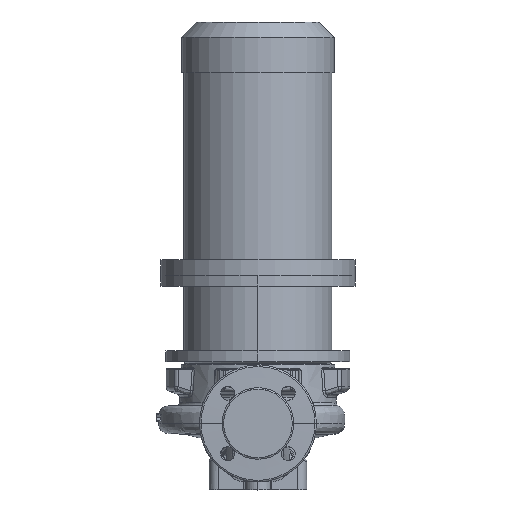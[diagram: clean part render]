
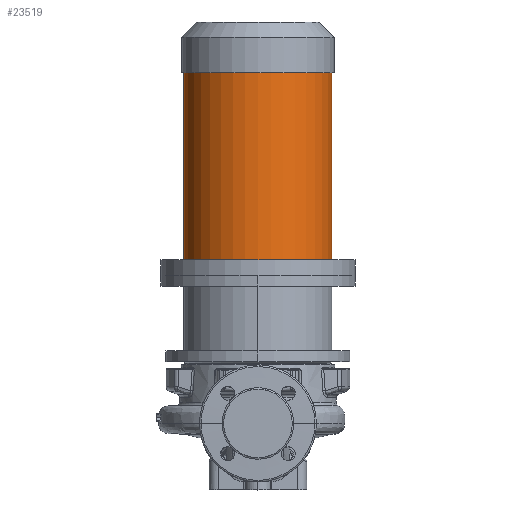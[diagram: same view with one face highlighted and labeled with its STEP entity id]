
A CAD part, top view. The second image highlights one B-rep face of the part: STEP entity #23519.
In plain terms, the highlighted cylindrical face has radius 95 mm (diameter 190 mm), a partial arc.
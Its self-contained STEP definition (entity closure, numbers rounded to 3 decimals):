
#6637 = AXIS2_PLACEMENT_3D ( 'NONE', #28154, #75405, #48581 ) ;
#7483 = VECTOR ( 'NONE', #33608, 1000. ) ;
#9449 = VERTEX_POINT ( 'NONE', #58224 ) ;
#12897 = CARTESIAN_POINT ( 'NONE',  ( 0., 190.3, 0. ) ) ;
#15125 = EDGE_LOOP ( 'NONE', ( #54924, #35420, #70887, #69320 ) ) ;
#17359 = CIRCLE ( 'NONE', #55841, 95. ) ;
#17844 = CARTESIAN_POINT ( 'NONE',  ( -95., 190.3, 0. ) ) ;
#20679 = CARTESIAN_POINT ( 'NONE',  ( 95., 190.3, 0. ) ) ;
#23519 = ADVANCED_FACE ( 'NONE', ( #37168 ), #72296, .T. ) ;
#26309 = EDGE_CURVE ( 'NONE', #9449, #65539, #17359, .T. ) ;
#27694 = CARTESIAN_POINT ( 'NONE',  ( -95., 450.3, 0. ) ) ;
#28154 = CARTESIAN_POINT ( 'NONE',  ( 0., 450.3, 0. ) ) ;
#29402 = CARTESIAN_POINT ( 'NONE',  ( -95., 210.3, 0. ) ) ;
#30343 = EDGE_CURVE ( 'NONE', #52563, #9449, #49774, .T. ) ;
#33608 = DIRECTION ( 'NONE',  ( 0., -1., 0. ) ) ;
#35420 = ORIENTED_EDGE ( 'NONE', *, *, #70815, .T. ) ;
#37168 = FACE_OUTER_BOUND ( 'NONE', #15125, .T. ) ;
#44867 = DIRECTION ( 'NONE',  ( -1., 0., 0. ) ) ;
#46018 = CARTESIAN_POINT ( 'NONE',  ( 95., 450.3, 0. ) ) ;
#48581 = DIRECTION ( 'NONE',  ( -1., 0., 0. ) ) ;
#49774 = LINE ( 'NONE', #20679, #7483 ) ;
#52029 = DIRECTION ( 'NONE',  ( 0., -1., 0. ) ) ;
#52563 = VERTEX_POINT ( 'NONE', #46018 ) ;
#54924 = ORIENTED_EDGE ( 'NONE', *, *, #30343, .F. ) ;
#55841 = AXIS2_PLACEMENT_3D ( 'NONE', #78818, #52029, #78250 ) ;
#58224 = CARTESIAN_POINT ( 'NONE',  ( 95., 210.3, 0. ) ) ;
#58496 = AXIS2_PLACEMENT_3D ( 'NONE', #12897, #59088, #44867 ) ;
#59088 = DIRECTION ( 'NONE',  ( 0., -1., 0. ) ) ;
#59919 = LINE ( 'NONE', #17844, #70254 ) ;
#64302 = DIRECTION ( 'NONE',  ( 0., -1., 0. ) ) ;
#65539 = VERTEX_POINT ( 'NONE', #29402 ) ;
#66180 = CIRCLE ( 'NONE', #6637, 95. ) ;
#69320 = ORIENTED_EDGE ( 'NONE', *, *, #26309, .F. ) ;
#70254 = VECTOR ( 'NONE', #64302, 1000. ) ;
#70815 = EDGE_CURVE ( 'NONE', #52563, #81604, #66180, .T. ) ;
#70887 = ORIENTED_EDGE ( 'NONE', *, *, #73449, .T. ) ;
#72296 = CYLINDRICAL_SURFACE ( 'NONE', #58496, 95. ) ;
#73449 = EDGE_CURVE ( 'NONE', #81604, #65539, #59919, .T. ) ;
#75405 = DIRECTION ( 'NONE',  ( 0., -1., 0. ) ) ;
#78250 = DIRECTION ( 'NONE',  ( -1., 0., 0. ) ) ;
#78818 = CARTESIAN_POINT ( 'NONE',  ( 0., 210.3, 0. ) ) ;
#81604 = VERTEX_POINT ( 'NONE', #27694 ) ;
